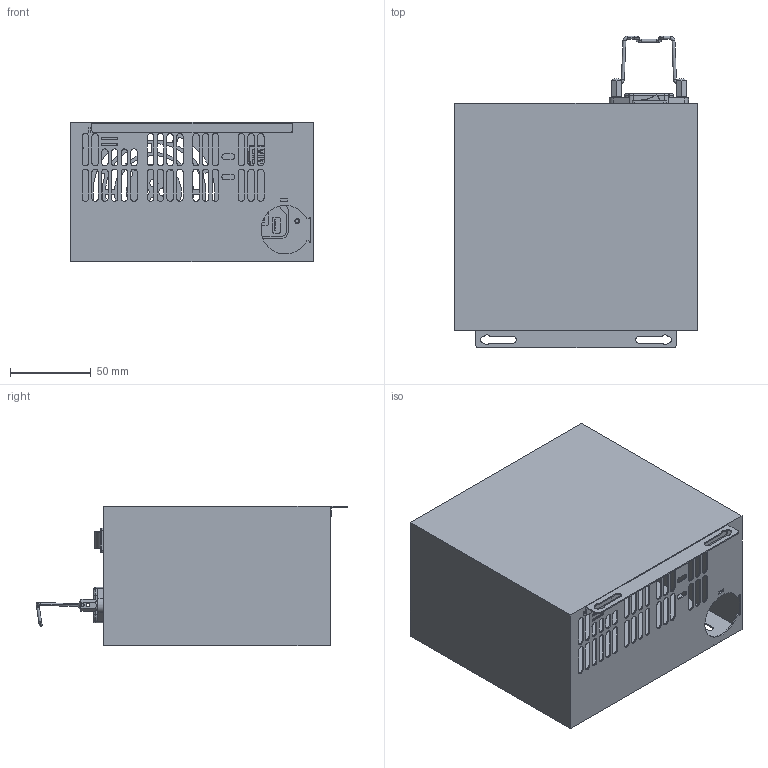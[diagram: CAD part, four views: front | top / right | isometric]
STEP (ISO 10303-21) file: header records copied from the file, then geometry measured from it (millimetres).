
FILE_DESCRIPTION((''),'2;1');
FILE_NAME('9PA500BL00_ASM','2017-06-29T',('erinhuang'),(''),'PRO/ENGINEER BY PARAMETRIC TECHNOLOGY CORPORATION, 2013230','PRO/ENGINEER BY PARAMETRIC TECHNOLOGY CORPORATION, 2013230','');
FILE_SCHEMA(('CONFIG_CONTROL_DESIGN'));
Length unit declared in the file: millimetre
Products named in the file (15): PRT0010; ASM0007_ASM; ASM0006_ASM; PRT0011; PRT0012; PRT0013; ASM0011_ASM; PRT0017; PRT0018; ASM0015_ASM; ASM0014_ASM; PRT0021; BEA0MA00_TEST2; PRT0022; 9PA500BL00_ASM
Assembly tree (16 placements, depth 4):
  9PA500BL00_ASM
    ASM0006_ASM
      ASM0007_ASM
        PRT0010
    ASM0011_ASM
      PRT0011
      PRT0012  x2
      PRT0013
    ASM0014_ASM
      ASM0015_ASM
        PRT0017
        PRT0018
    PRT0021
    BEA0MA00_TEST2  x2
    PRT0022
Bounding box: 150 x 192.59 x 86 mm (x, y, z)
Volume: 76000.1 mm3; surface area: 184637.7 mm2
Topology: 11 solids, 11 shells, 1658 faces, 4675 edges, 3061 vertices
Faces by surface type: plane 904, cylinder 560, cone 144, torus 40, sphere 10
Entity records: 49259 total; most frequent: CARTESIAN_POINT 8716, ORIENTED_EDGE 8478, DIRECTION 8364, EDGE_CURVE 4239, VECTOR 3096, LINE 3096, VERTEX_POINT 2809, AXIS2_PLACEMENT_3D 2634
